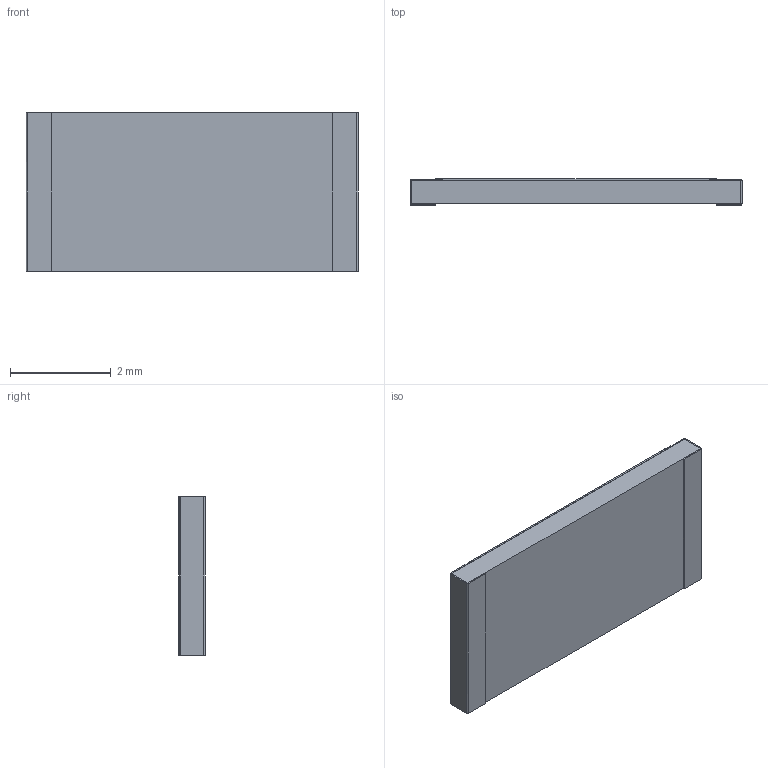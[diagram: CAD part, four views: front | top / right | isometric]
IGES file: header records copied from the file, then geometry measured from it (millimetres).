
Global section: file name: M55342-09; native system: Autodesk Inventor LT ; preprocessor: unknown; author: Neil; date: 20190911.151014; units: inch
Bounding box: 6.58 x 0.52 x 3.15 mm (x, y, z)
Volume: 10.2 mm3; surface area: 131.3 mm2
Topology: 5 solids, 5 shells, 50 faces, 120 edges, 80 vertices
Faces by surface type: bspline 50
